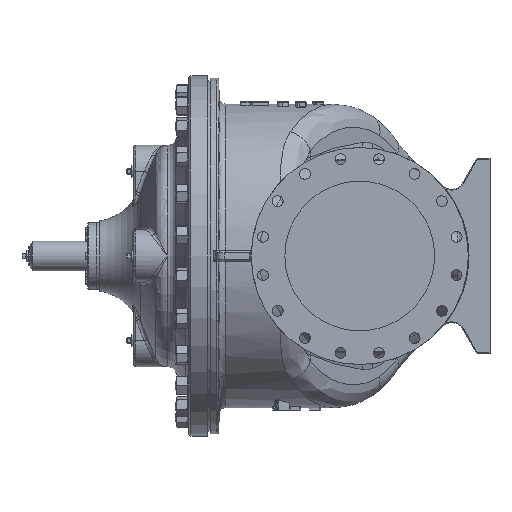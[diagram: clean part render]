
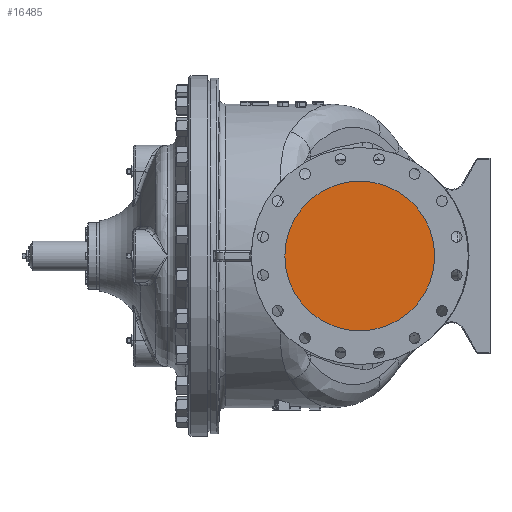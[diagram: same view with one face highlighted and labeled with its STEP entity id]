
A CAD part, left-side view. The second image highlights one B-rep face of the part: STEP entity #16485.
In plain terms, the highlighted planar face has unit normal (-1, 0, 0).
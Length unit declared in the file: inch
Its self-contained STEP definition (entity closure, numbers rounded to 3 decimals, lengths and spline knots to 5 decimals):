
#210 = ORIENTED_EDGE ( 'NONE', *, *, #5994, .F. ) ;
#1912 = EDGE_LOOP ( 'NONE', ( #41418, #210 ) ) ;
#3056 = VERTEX_POINT ( 'NONE', #27242 ) ;
#5979 = PLANE ( 'NONE',  #78452 ) ;
#5994 = EDGE_CURVE ( 'NONE', #3056, #9723, #59176, .T. ) ;
#7792 = CARTESIAN_POINT ( 'NONE',  ( -22., 0., 0. ) ) ;
#9723 = VERTEX_POINT ( 'NONE', #70538 ) ;
#12461 = DIRECTION ( 'NONE',  ( 0., 0., -1. ) ) ;
#14275 = DIRECTION ( 'NONE',  ( 0., 0., -1. ) ) ;
#16485 = ADVANCED_FACE ( 'NONE', ( #41319 ), #5979, .F. ) ;
#16564 = AXIS2_PLACEMENT_3D ( 'NONE', #7792, #52743, #14275 ) ;
#20127 = DIRECTION ( 'NONE',  ( 1., 0., 0. ) ) ;
#27242 = CARTESIAN_POINT ( 'NONE',  ( -22., 0., -8.625 ) ) ;
#41022 = CIRCLE ( 'NONE', #16564, 8.625 ) ;
#41319 = FACE_OUTER_BOUND ( 'NONE', #1912, .T. ) ;
#41418 = ORIENTED_EDGE ( 'NONE', *, *, #57296, .F. ) ;
#50909 = DIRECTION ( 'NONE',  ( 1., 0., 0. ) ) ;
#52743 = DIRECTION ( 'NONE',  ( 1., 0., 0. ) ) ;
#57296 = EDGE_CURVE ( 'NONE', #9723, #3056, #41022, .T. ) ;
#58636 = CARTESIAN_POINT ( 'NONE',  ( -22., 0., 0. ) ) ;
#59176 = CIRCLE ( 'NONE', #79539, 8.625 ) ;
#65099 = DIRECTION ( 'NONE',  ( 0., 0., -1. ) ) ;
#70538 = CARTESIAN_POINT ( 'NONE',  ( -22., 0., 8.625 ) ) ;
#76517 = CARTESIAN_POINT ( 'NONE',  ( -22., 0., 0. ) ) ;
#78452 = AXIS2_PLACEMENT_3D ( 'NONE', #76517, #50909, #12461 ) ;
#79539 = AXIS2_PLACEMENT_3D ( 'NONE', #58636, #20127, #65099 ) ;
